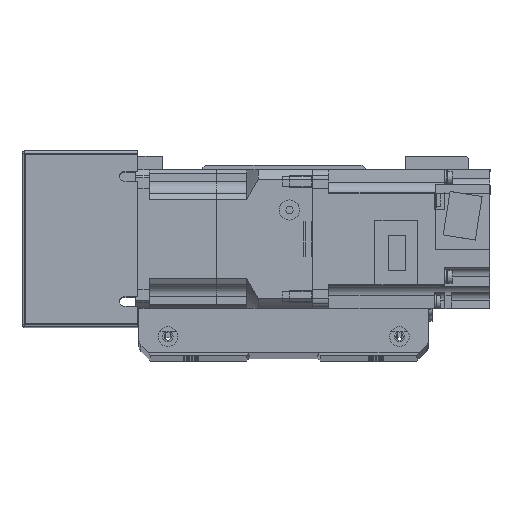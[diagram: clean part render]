
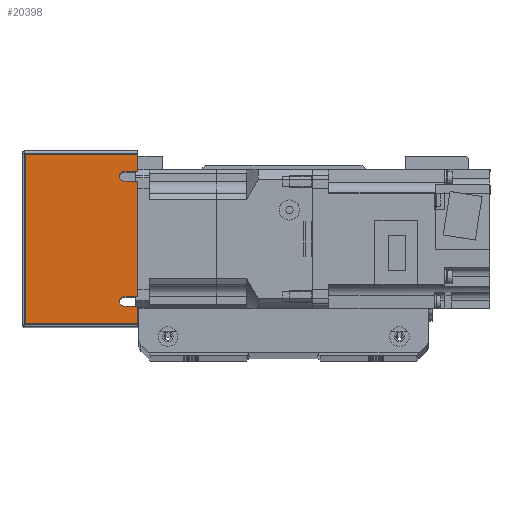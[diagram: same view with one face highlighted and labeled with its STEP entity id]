
A CAD part, top view. The second image highlights one B-rep face of the part: STEP entity #20398.
In plain terms, the highlighted planar face has unit normal (0, 0, 1) as drawn and (-1, 0, 0) by its records, which use the part's own axes.
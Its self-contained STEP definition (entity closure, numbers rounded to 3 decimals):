
#706=PLANE('',#22620);
#2036=LINE('',#34566,#3660);
#2045=LINE('',#34585,#3669);
#2052=LINE('',#34602,#3676);
#2060=LINE('',#34620,#3684);
#2073=LINE('',#34659,#3697);
#2078=LINE('',#34671,#3702);
#2082=LINE('',#34683,#3706);
#2085=LINE('',#34693,#3709);
#2086=LINE('',#34695,#3710);
#2087=LINE('',#34696,#3711);
#3660=VECTOR('',#28029,10.);
#3669=VECTOR('',#28042,10.);
#3676=VECTOR('',#28053,10.);
#3684=VECTOR('',#28065,10.);
#3697=VECTOR('',#28108,10.);
#3702=VECTOR('',#28119,10.);
#3706=VECTOR('',#28129,10.);
#3709=VECTOR('',#28140,10.);
#3710=VECTOR('',#28141,10.);
#3711=VECTOR('',#28142,10.);
#6108=FACE_OUTER_BOUND('',#7772,.T.);
#7772=EDGE_LOOP('',(#18313,#18314,#18315,#18316,#18317,#18318,#18319,#18320,
#18321,#18322,#18323,#18324));
#8944=CIRCLE('',#22598,2.);
#8949=CIRCLE('',#22606,2.);
#10665=VERTEX_POINT('',#34563);
#10666=VERTEX_POINT('',#34565);
#10672=VERTEX_POINT('',#34579);
#10674=VERTEX_POINT('',#34583);
#10681=VERTEX_POINT('',#34599);
#10682=VERTEX_POINT('',#34601);
#10689=VERTEX_POINT('',#34617);
#10690=VERTEX_POINT('',#34619);
#10701=VERTEX_POINT('',#34657);
#10710=VERTEX_POINT('',#34682);
#10713=VERTEX_POINT('',#34692);
#10714=VERTEX_POINT('',#34694);
#13248=EDGE_CURVE('',#10666,#10665,#2036,.T.);
#13257=EDGE_CURVE('',#10672,#10674,#2045,.T.);
#13264=EDGE_CURVE('',#10682,#10681,#2052,.T.);
#13272=EDGE_CURVE('',#10690,#10689,#2060,.T.);
#13278=EDGE_CURVE('',#10674,#10666,#8944,.T.);
#13289=EDGE_CURVE('',#10689,#10682,#8949,.T.);
#13294=EDGE_CURVE('',#10701,#10681,#2073,.T.);
#13301=EDGE_CURVE('',#10690,#10665,#2078,.T.);
#13307=EDGE_CURVE('',#10672,#10710,#2082,.T.);
#13312=EDGE_CURVE('',#10713,#10701,#2085,.T.);
#13313=EDGE_CURVE('',#10714,#10713,#2086,.T.);
#13314=EDGE_CURVE('',#10710,#10714,#2087,.T.);
#18313=ORIENTED_EDGE('',*,*,#13248,.T.);
#18314=ORIENTED_EDGE('',*,*,#13301,.F.);
#18315=ORIENTED_EDGE('',*,*,#13272,.T.);
#18316=ORIENTED_EDGE('',*,*,#13289,.T.);
#18317=ORIENTED_EDGE('',*,*,#13264,.T.);
#18318=ORIENTED_EDGE('',*,*,#13294,.F.);
#18319=ORIENTED_EDGE('',*,*,#13312,.F.);
#18320=ORIENTED_EDGE('',*,*,#13313,.F.);
#18321=ORIENTED_EDGE('',*,*,#13314,.F.);
#18322=ORIENTED_EDGE('',*,*,#13307,.F.);
#18323=ORIENTED_EDGE('',*,*,#13257,.T.);
#18324=ORIENTED_EDGE('',*,*,#13278,.T.);
#20398=ADVANCED_FACE('',(#6108),#706,.T.);
#22598=AXIS2_PLACEMENT_3D('',#34632,#28075,#28076);
#22606=AXIS2_PLACEMENT_3D('',#34650,#28097,#28098);
#22620=AXIS2_PLACEMENT_3D('',#34691,#28138,#28139);
#28029=DIRECTION('',(0.,0.,1.));
#28042=DIRECTION('',(0.,0.,-1.));
#28053=DIRECTION('',(0.,0.,1.));
#28065=DIRECTION('',(0.,0.,-1.));
#28075=DIRECTION('center_axis',(1.,0.,0.));
#28076=DIRECTION('ref_axis',(0.,0.,1.));
#28097=DIRECTION('center_axis',(1.,0.,0.));
#28098=DIRECTION('ref_axis',(0.,0.,1.));
#28108=DIRECTION('',(0.,-1.,0.));
#28119=DIRECTION('',(0.,-1.,0.));
#28129=DIRECTION('',(0.,-1.,0.));
#28138=DIRECTION('center_axis',(-1.,0.,0.));
#28139=DIRECTION('ref_axis',(0.,-1.,0.));
#28140=DIRECTION('',(0.,0.,1.));
#28141=DIRECTION('',(0.,1.,0.));
#28142=DIRECTION('',(0.,0.,-1.));
#34563=CARTESIAN_POINT('',(-91.,-25.,25.));
#34565=CARTESIAN_POINT('',(-91.,-25.,19.));
#34566=CARTESIAN_POINT('',(-91.,-25.,9.5));
#34579=CARTESIAN_POINT('',(-91.,-29.,25.));
#34583=CARTESIAN_POINT('',(-91.,-29.,19.));
#34585=CARTESIAN_POINT('',(-91.,-29.,15.178));
#34599=CARTESIAN_POINT('',(-91.,29.,25.));
#34601=CARTESIAN_POINT('',(-91.,29.,19.));
#34602=CARTESIAN_POINT('',(-91.,29.,9.5));
#34617=CARTESIAN_POINT('',(-91.,25.,19.));
#34619=CARTESIAN_POINT('',(-91.,25.,25.));
#34620=CARTESIAN_POINT('',(-91.,25.,15.178));
#34632=CARTESIAN_POINT('Origin',(-91.,-27.,19.));
#34650=CARTESIAN_POINT('Origin',(-91.,27.,19.));
#34657=CARTESIAN_POINT('',(-91.,37.,25.));
#34659=CARTESIAN_POINT('',(-91.,-38.,25.));
#34671=CARTESIAN_POINT('',(-91.,-38.,25.));
#34682=CARTESIAN_POINT('',(-91.,-37.,25.));
#34683=CARTESIAN_POINT('',(-91.,-38.,25.));
#34691=CARTESIAN_POINT('Origin',(-91.,38.,0.));
#34692=CARTESIAN_POINT('',(-91.,37.,-24.));
#34693=CARTESIAN_POINT('',(-91.,37.,0.));
#34694=CARTESIAN_POINT('',(-91.,-37.,-24.));
#34695=CARTESIAN_POINT('',(-91.,19.,-24.));
#34696=CARTESIAN_POINT('',(-91.,-37.,0.));
